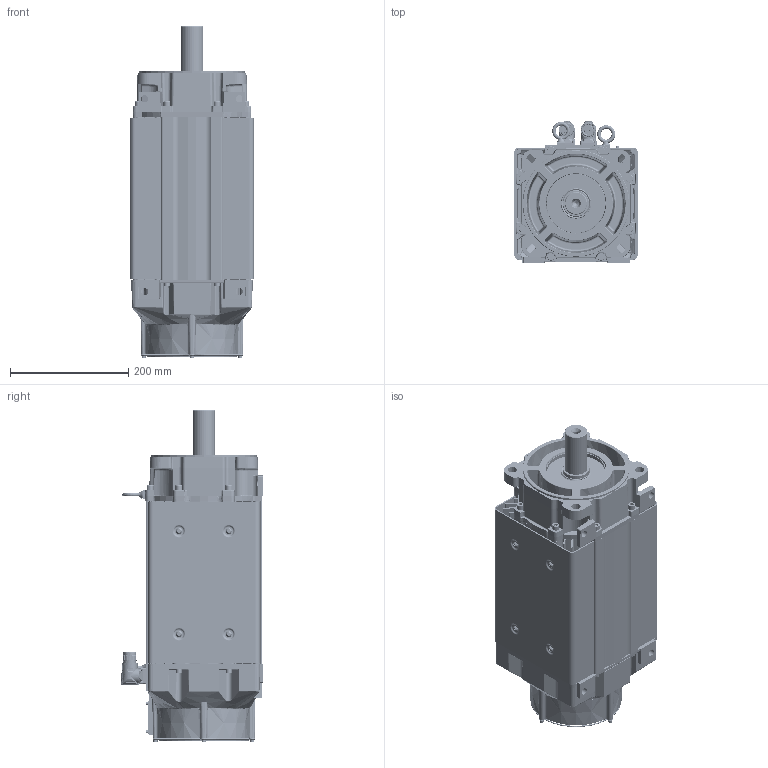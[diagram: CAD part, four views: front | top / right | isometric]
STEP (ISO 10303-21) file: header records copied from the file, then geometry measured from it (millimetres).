
FILE_DESCRIPTION((''),'2;1');
FILE_NAME('VPC-B21549-YK72FX_ASM','2016-09-27T',('SRGaddam'),('Rockwell Automation'),'PRO/ENGINEER BY PARAMETRIC TECHNOLOGY CORPORATION, 2012480','PRO/ENGINEER BY PARAMETRIC TECHNOLOGY CORPORATION, 2012480','');
FILE_SCHEMA(('CONFIG_CONTROL_DESIGN'));
Products named in the file (45): 10001238886_AF0; 10001298482_AF22; 10001284445_ASM; CH31X150; 10001365220; 10000569218; 10001416311; 10001587021; 10001257630_AF285; 10001300098_AF257; 10001314842_ASM; 10001289764; 10002069468; 10001935397; 10001713570; 10001713572_ASM; 91290A150BR; 10001289776; CH4X050; 10001587458; 91290A115; 10001336508; 10001409703; 10001299929; 10001284567; 10001518963; 91290A148BR; 10001587431; 91290A139BR; 10000231113; 10001289808_ASM; 10001609981; 0002-5005; 10001586886; 10001369859_KEYLESS; 142413_923; PRT0001_923; 142413-1_923_ASM; 10000172464; M923_ASM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
Assembly tree (87 placements, depth 4):
  VPC-B21549-YK72FX_ASM
    10001284445_ASM
      10001238886_AF0
      10001298482_AF22
    CH31X150  x8
    10001365220
    10000569218
    10001416311  x2
    10001587021  x8
    10001314842_ASM
      10001257630_AF285
      10001300098_AF257
    10001289808_ASM
      10001289764
      10002069468
      10001713572_ASM
        10001935397
        10001713570
      91290A150BR  x4
      10001289776
      CH4X050  x2
      10001587458
      91290A115  x5
      10001336508
      10001409703
      10001299929
      10001284567
      10001518963
      91290A148BR  x8
      10001587431
      91290A139BR
      10000231113
    10001609981
    0002-5005  x2
    10001586886  x6
    10001369859_KEYLESS
    M923_ASM
      142413-1_923_ASM
        142413_923
        PRT0001_923
      10000172464  x4
    M623_ASM
      142414-1_623_ASM
        142414_623
        135798_623
      10000172464  x4
Bounding box: 210.91 x 240 x 560.61 mm (x, y, z)
Volume: 5496628.1 mm3; surface area: 1723698 mm2
Topology: 88 solids, 88 shells, 7414 faces, 17819 edges, 10888 vertices
Faces by surface type: plane 2140, cylinder 2057, bspline 1384, cone 956, torus 697, sphere 148, revolution 30, extrusion 2
Entity records: 248657 total; most frequent: CARTESIAN_POINT 114584, ORIENTED_EDGE 29062, DIRECTION 26105, EDGE_CURVE 14531, AXIS2_PLACEMENT_3D 10318, VERTEX_POINT 9013, EDGE_LOOP 6522, FACE_OUTER_BOUND 5967
